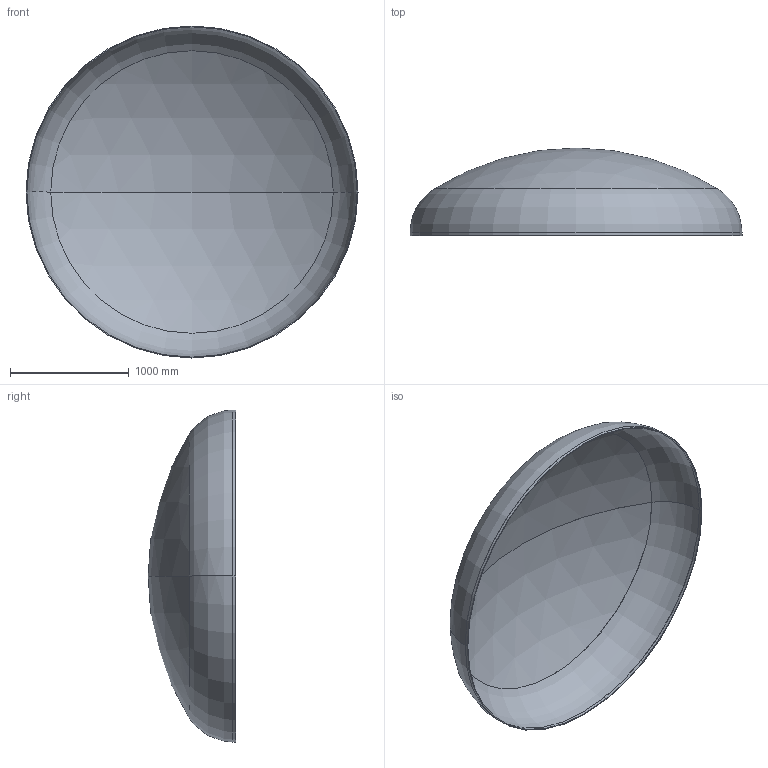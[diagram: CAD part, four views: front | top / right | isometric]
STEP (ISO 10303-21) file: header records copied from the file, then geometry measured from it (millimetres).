
FILE_DESCRIPTION (( 'STEP AP203' ), '1' );
FILE_NAME ('DIN 28013 Korbbogenform_-_Boden DIN 28013 - 2800 x 25 - I - s=7.step', '2016-07-01T16:39:33', ( '' ), ( '' ), 'SwSTEP 2.0', 'SolidWorks 2013', '' );
FILE_SCHEMA (( 'CONFIG_CONTROL_DESIGN' ));
Length unit declared in the file: millimetre
Products named in the file (1): DIN 28013 Korbbogenform_-_Boden DIN 28013 - 2800 x 25 - I - s=7
Bounding box: 2800 x 739.44 x 2800 mm (x, y, z)
Volume: 61007739.1 mm3; surface area: 17492299.4 mm2
Topology: 1 solids, 1 shells, 13 faces, 24 edges, 14 vertices
Faces by surface type: torus 4, cylinder 4, sphere 4, plane 1
Entity records: 407 total; most frequent: DIRECTION 72, CARTESIAN_POINT 52, ORIENTED_EDGE 48, AXIS2_PLACEMENT_3D 34, EDGE_CURVE 24, CIRCLE 20, VERTEX_POINT 14, EDGE_LOOP 14
